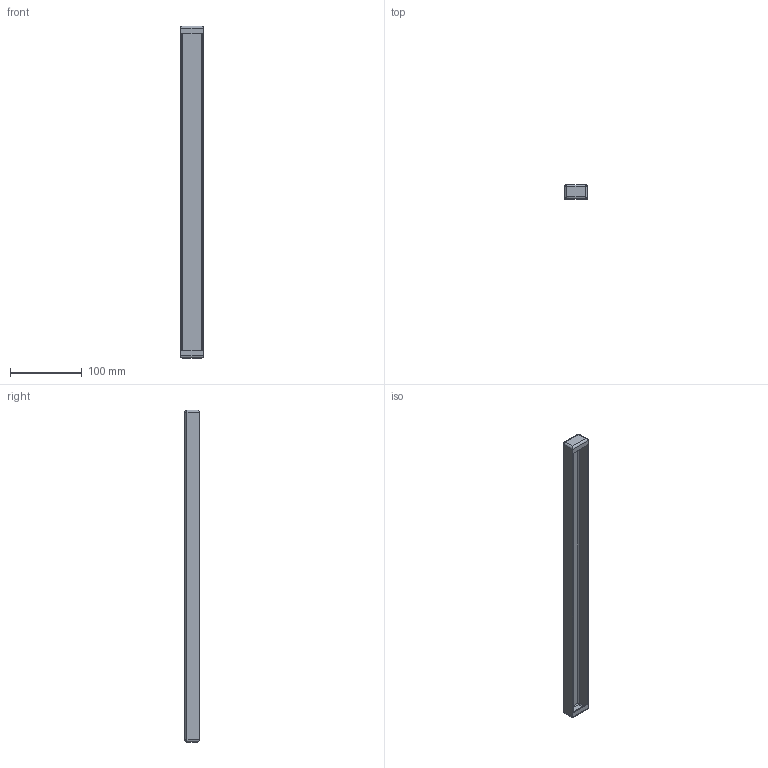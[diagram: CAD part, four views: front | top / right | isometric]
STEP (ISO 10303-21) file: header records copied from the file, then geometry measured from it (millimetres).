
FILE_DESCRIPTION (( 'STEP AP203' ), '1' );
FILE_NAME ('GB 50 R Ïëàíêà çàùèòíàÿ.STEP', '2013-01-09T15:49:32', ( 'System' ), ( '' ), 'SwSTEP 2.0', 'SolidWorks 2012', '' );
FILE_SCHEMA (( 'CONFIG_CONTROL_DESIGN' ));
Length unit declared in the file: millimetre
Products named in the file (1): GB 50 R Ïëàíêà çàùèòíàÿ
Bounding box: 32 x 20 x 464 mm (x, y, z)
Volume: 48737.8 mm3; surface area: 66413.5 mm2
Topology: 1 solids, 1 shells, 43 faces, 96 edges, 48 vertices
Faces by surface type: cylinder 20, plane 15, sphere 8
Entity records: 1167 total; most frequent: CARTESIAN_POINT 204, DIRECTION 192, ORIENTED_EDGE 176, EDGE_CURVE 88, AXIS2_PLACEMENT_3D 68, VECTOR 56, LINE 56, VERTEX_POINT 48
